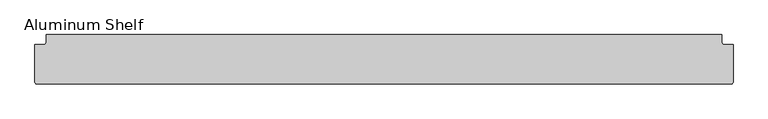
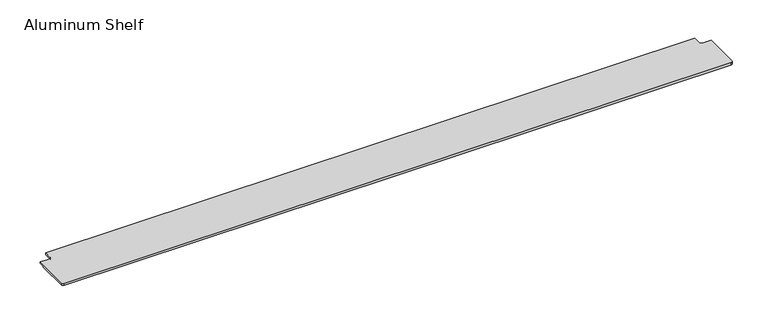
"""IFC4 building model written with IfcOpenShell, lengths in millimetres: furniture geometry, Furniture-Shelf-Teknion-Altos_Landscape-R2015 : Aluminum Shelf."""

from ifc_helpers import new_model, si_unit, frame, origin, place, context, project, spatial, polyline, circle_curve, source, transform, mapped, element, save
from ifc_brep_helpers import plane_surface, cylinder_surface, revolved_surface, advanced_brep


def aluminum_shelf_4e7f8018(model_context):
    return source(origin(), model_context, "Body", "AdvancedBrep", [
        advanced_brep(
        [(-1136.65, -70.8560781, 2.4854), (882.65, -70.8560781, 2.4854), (889.0, -64.5060781, 2.4854), (889.0, 44.5882219, 2.4854), (862.9396, 44.5882219, 2.4854), (856.5896, 50.9382219, 2.4854), (856.5896, 73.1812219, 2.4854), (-1110.5896, 73.1812219, 2.4854), (-1110.5896, 50.9382219, 2.4854), (-1116.9396, 44.5882219, 2.4854), (-1143.0, 44.5882219, 2.4854), (-1143.0, -64.5060781, 2.4854), (-1136.65, -70.8560781, -4.5146), (-1143.0, -64.5060781, -4.5146), (-1143.0, 29.2199219, -4.5146), (889.0, 29.2199219, -4.5146), (889.0, -64.5060781, -4.5146), (882.65, -70.8560781, -4.5146), (889.0, 29.2199219, -2.51586), (889.0, 44.5882219, -2.51586), (862.9396, 44.5882219, -2.51586), (856.5896, 50.9382219, -2.51586), (856.5896, 73.1812219, -2.51586), (-1110.5896, 73.1812219, -2.51586), (-1110.5896, 50.9382219, -2.51586), (-1116.9396, 44.5882219, -2.51586), (-1143.0, 44.5882219, -2.51586), (-1143.0, 29.2199219, -2.51586)],
        [
            (0, 1),
            (1, 2, circle_curve(frame((882.65, -64.5060781, 2.4854), z_axis=(0.0, 0.0, 1.0), x_axis=(1.0, 0.0, 0.0)), 6.35)),
            (2, 3),
            (3, 4),
            (4, 5, circle_curve(frame((862.9396, 50.9382219, 2.4854), z_axis=(0.0, 0.0, -1.0), x_axis=(1.0, 0.0, 0.0)), 6.35)),
            (5, 6),
            (6, 7),
            (7, 8),
            (8, 9, circle_curve(frame((-1116.9396, 50.9382219, 2.4854), z_axis=(0.0, 0.0, -1.0), x_axis=(1.0, 0.0, 0.0)), 6.35)),
            (9, 10),
            (10, 11),
            (11, 0, circle_curve(frame((-1136.65, -64.5060781, 2.4854), z_axis=(0.0, 0.0, 1.0), x_axis=(1.0, 0.0, 0.0)), 6.35)),
            (12, 13, circle_curve(frame((-1136.65, -64.5060781, -4.5146), z_axis=(0.0, 0.0, -1.0), x_axis=(1.0, 0.0, 0.0)), 6.35)),
            (13, 14),
            (14, 15),
            (15, 16),
            (16, 17, circle_curve(frame((882.65, -64.5060781, -4.5146), z_axis=(0.0, 0.0, -1.0), x_axis=(1.0, 0.0, 0.0)), 6.35)),
            (17, 12),
            (0, 12),
            (17, 1),
            (16, 2),
            (15, 18),
            (18, 19),
            (19, 3),
            (19, 20),
            (20, 4),
            (20, 21, circle_curve(frame((862.9396, 50.9382219, -2.51586), z_axis=(0.0, 0.0, -1.0), x_axis=(1.0, 0.0, 0.0)), 6.35)),
            (21, 5),
            (21, 22),
            (22, 6),
            (22, 23),
            (23, 7),
            (23, 24),
            (24, 8),
            (24, 25, circle_curve(frame((-1116.9396, 50.9382219, -2.51586), z_axis=(0.0, 0.0, -1.0), x_axis=(1.0, 0.0, 0.0)), 6.35)),
            (25, 9),
            (25, 26),
            (26, 10),
            (26, 27),
            (27, 14),
            (13, 11),
            (27, 18),
        ],
        [
            plane_surface(frame((-127.0, -31.1050781, 2.4854), z_axis=(0.0, 0.0, 1.0), x_axis=(1.0, 0.0, 0.0))),
            plane_surface(frame((-127.0, -31.1050781, -4.5146), z_axis=(0.0, 0.0, -1.0), x_axis=(1.0, 0.0, 0.0))),
            plane_surface(frame((-1136.65, -70.8560781, 2.4854), z_axis=(0.0, -1.0, 0.0), x_axis=(0.0, 0.0, -1.0))),
            cylinder_surface(frame((882.65, -64.5060781, 2.4854), z_axis=(0.0, 0.0, 1.0), x_axis=(1.0, 0.0, 0.0)), 6.35),
            plane_surface(frame((889.0, -64.5060781, 2.4854), z_axis=(1.0, 0.0, 0.0), x_axis=(0.0, 0.0, -1.0))),
            plane_surface(frame((889.0, 44.5882219, 2.4854), z_axis=(0.0, 1.0, 0.0), x_axis=(0.0, 0.0, -1.0))),
            revolved_surface(polyline([(869.2896000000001, 50.9382219, -2.5158600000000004), (869.2896000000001, 50.9382219, 2.4854)]), (862.9396, 50.9382219, 2.4854), (0.0, 0.0, -1.0)),
            plane_surface(frame((856.5896, 50.9382219, 2.4854), z_axis=(1.0, 0.0, 0.0), x_axis=(0.0, 0.0, -1.0))),
            plane_surface(frame((856.5896, 73.1812219, 2.4854), z_axis=(0.0, 1.0, 0.0), x_axis=(0.0, 0.0, -1.0))),
            plane_surface(frame((-1110.5896, 73.1812219, 2.4854), z_axis=(-1.0, 0.0, 0.0), x_axis=(0.0, 0.0, -1.0))),
            revolved_surface(polyline([(-1110.5896, 50.9382219, -2.5158600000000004), (-1110.5896, 50.9382219, 2.4854)]), (-1116.9396, 50.9382219, 2.4854), (0.0, 0.0, -1.0)),
            plane_surface(frame((-1116.9396, 44.5882219, 2.4854), z_axis=(0.0, 1.0, 0.0), x_axis=(0.0, 0.0, -1.0))),
            plane_surface(frame((-1143.0, 44.5882219, 2.4854), z_axis=(-1.0, 0.0, 0.0), x_axis=(0.0, 0.0, -1.0))),
            cylinder_surface(frame((-1136.65, -64.5060781, 2.4854), z_axis=(0.0, 0.0, 1.0), x_axis=(1.0, 0.0, 0.0)), 6.35),
            plane_surface(frame((-1143.0, 29.2199219, -14.4803672), z_axis=(0.0, 1.0, 0.0), x_axis=(1.0, 0.0, 0.0))),
            plane_surface(frame((-1143.0, 29.2199219, -2.51586), z_axis=(0.0, 0.0, -1.0), x_axis=(1.0, 0.0, 0.0))),
        ],
        [
            (0, [[1, 2, 3, 4, 5, 6, 7, 8, 9, 10, 11, 12]]),
            (1, [[13, 14, 15, 16, 17, 18]]),
            (2, [[-1, 19, -18, 20]]),
            (3, [[-2, -20, -17, 21]]),
            (4, [[-3, -21, -16, 22, 23, 24]]),
            (5, [[-4, -24, 25, 26]]),
            (6, [[-5, -26, 27, 28]]),
            (7, [[-6, -28, 29, 30]]),
            (8, [[-7, -30, 31, 32]]),
            (9, [[-8, -32, 33, 34]]),
            (10, [[-9, -34, 35, 36]]),
            (11, [[-10, -36, 37, 38]]),
            (12, [[-11, -38, 39, 40, -14, 41]]),
            (13, [[-12, -41, -13, -19]]),
            (14, [[42, -22, -15, -40]]),
            (15, [[-42, -39, -37, -35, -33, -31, -29, -27, -25, -23]]),
        ],
    ),
    ])


if __name__ == "__main__":
    model = new_model("IFC4")
    model_context = context("Model", 3, world=origin())
    ifc_project = project(units=[si_unit("LENGTHUNIT", "METRE", prefix="MILLI")], contexts=[model_context])
    site = spatial("IfcSite", under=ifc_project)
    building = spatial("IfcBuilding", under=site)
    placement = place(None, origin())
    aluminum_shelf_shape = aluminum_shelf_4e7f8018(model_context)
    element("IfcFurniture", 1, ObjectType="Furniture-Shelf-Teknion-Altos_Landscape-R2015 : Aluminum Shelf", at=placement, inside=building, context=model_context, shape_type="MappedRepresentation", body=[
        mapped(aluminum_shelf_shape, transform((0.0, 0.0, 0.0), x_axis=(1.0, 0.0, 0.0), y_axis=(0.0, 1.0, 0.0), z_axis=(0.0, 0.0, 1.0))),
    ])
    save(model, "model.ifc")
